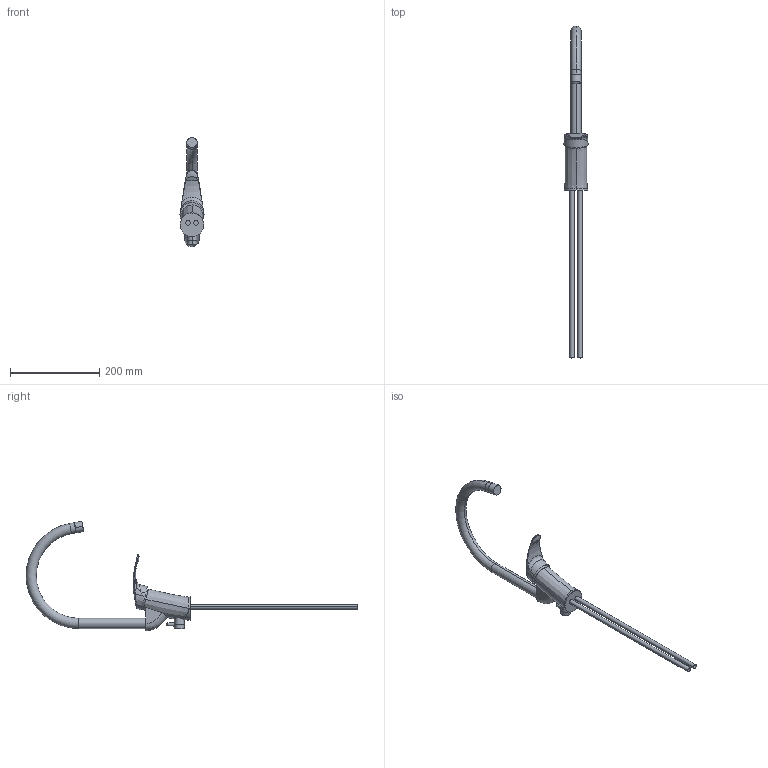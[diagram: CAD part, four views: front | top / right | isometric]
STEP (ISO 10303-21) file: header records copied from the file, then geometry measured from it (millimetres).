
FILE_DESCRIPTION((''),'2;1');
FILE_NAME('10071_WEB','2018-10-05T11:01:21',('jaj'),(''),'CREO PARAMETRIC BY PTC INC, 2017380','CREO PARAMETRIC BY PTC INC, 2017380','');
FILE_SCHEMA(('CONFIG_CONTROL_DESIGN'));
Length unit declared in the file: millimetre
Products named in the file (1): 10071_WEB
Bounding box: 54 x 743.06 x 244.7 mm (x, y, z)
Surface area: 96980.4 mm2 (no closed solid volume)
Topology: 0 solids, 8 shells, 64 faces, 160 edges, 95 vertices
Faces by surface type: bspline 34, cylinder 11, cone 8, plane 6, torus 3, sphere 2
Entity records: 5454 total; most frequent: CARTESIAN_POINT 4176, ORIENTED_EDGE 277, DIRECTION 192, EDGE_CURVE 154, VERTEX_POINT 95, AXIS2_PLACEMENT_3D 81, B_SPLINE_CURVE_WITH_KNOTS 73, EDGE_LOOP 66
